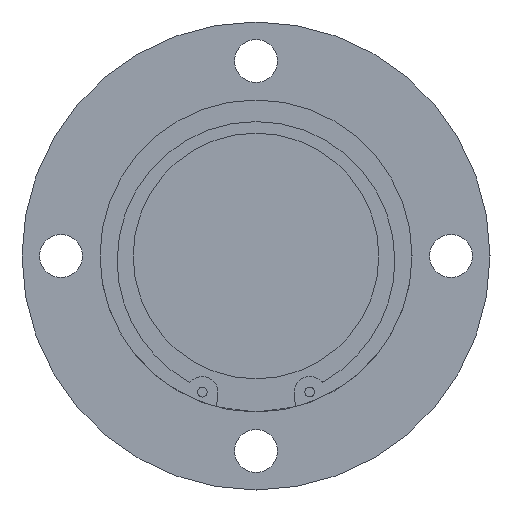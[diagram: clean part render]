
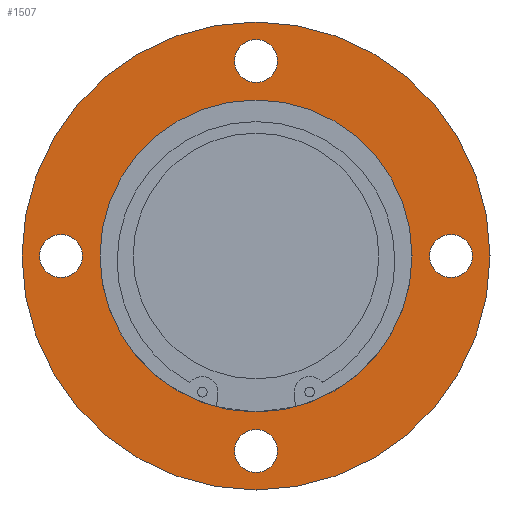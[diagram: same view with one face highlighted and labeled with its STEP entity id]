
A CAD part, front view. The second image highlights one B-rep face of the part: STEP entity #1507.
In plain terms, the highlighted planar face has unit normal (0, -1, 0).
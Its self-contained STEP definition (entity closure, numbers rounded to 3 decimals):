
#78 = EDGE_CURVE ( 'NONE', #1562, #536, #2564, .T. ) ;
#121 = ORIENTED_EDGE ( 'NONE', *, *, #3142, .T. ) ;
#181 = CARTESIAN_POINT ( 'NONE',  ( 0., 0., -50. ) ) ;
#236 = AXIS2_PLACEMENT_3D ( 'NONE', #996, #3233, #1723 ) ;
#248 = CARTESIAN_POINT ( 'NONE',  ( 0., 0., 0. ) ) ;
#262 = VERTEX_POINT ( 'NONE', #3235 ) ;
#306 = CIRCLE ( 'NONE', #2497, 60. ) ;
#325 = DIRECTION ( 'NONE',  ( 1., 0., 0. ) ) ;
#341 = EDGE_LOOP ( 'NONE', ( #642, #1857 ) ) ;
#365 = DIRECTION ( 'NONE',  ( 0., 1., 0. ) ) ;
#440 = VERTEX_POINT ( 'NONE', #2336 ) ;
#497 = DIRECTION ( 'NONE',  ( -1., 0., 0. ) ) ;
#498 = EDGE_CURVE ( 'NONE', #2061, #262, #2524, .T. ) ;
#500 = DIRECTION ( 'NONE',  ( 0., 1., 0. ) ) ;
#536 = VERTEX_POINT ( 'NONE', #1197 ) ;
#544 = CIRCLE ( 'NONE', #236, 5.5 ) ;
#549 = CARTESIAN_POINT ( 'NONE',  ( 0., 0., 0. ) ) ;
#554 = FACE_BOUND ( 'NONE', #2042, .T. ) ;
#577 = DIRECTION ( 'NONE',  ( 0., 1., 0. ) ) ;
#588 = VERTEX_POINT ( 'NONE', #728 ) ;
#606 = CARTESIAN_POINT ( 'NONE',  ( -55.5, 0., 0. ) ) ;
#642 = ORIENTED_EDGE ( 'NONE', *, *, #1588, .T. ) ;
#685 = CARTESIAN_POINT ( 'NONE',  ( 55.5, 0., 0. ) ) ;
#728 = CARTESIAN_POINT ( 'NONE',  ( -40., 0., 0. ) ) ;
#762 = VERTEX_POINT ( 'NONE', #685 ) ;
#764 = VERTEX_POINT ( 'NONE', #3005 ) ;
#785 = ORIENTED_EDGE ( 'NONE', *, *, #2145, .T. ) ;
#796 = EDGE_CURVE ( 'NONE', #764, #762, #544, .T. ) ;
#803 = DIRECTION ( 'NONE',  ( 0., 1., 0. ) ) ;
#809 = DIRECTION ( 'NONE',  ( -1., 0., 0. ) ) ;
#841 = EDGE_CURVE ( 'NONE', #1816, #588, #3081, .T. ) ;
#867 = ORIENTED_EDGE ( 'NONE', *, *, #78, .T. ) ;
#922 = EDGE_LOOP ( 'NONE', ( #1017, #3146 ) ) ;
#925 = DIRECTION ( 'NONE',  ( 1., 0., 0. ) ) ;
#934 = DIRECTION ( 'NONE',  ( 1., 0., 0. ) ) ;
#996 = CARTESIAN_POINT ( 'NONE',  ( 50., 0., 0. ) ) ;
#997 = CARTESIAN_POINT ( 'NONE',  ( 60., 0., 0. ) ) ;
#1017 = ORIENTED_EDGE ( 'NONE', *, *, #796, .T. ) ;
#1102 = DIRECTION ( 'NONE',  ( 1., 0., 0. ) ) ;
#1156 = PLANE ( 'NONE',  #2818 ) ;
#1165 = CIRCLE ( 'NONE', #3089, 5.5 ) ;
#1197 = CARTESIAN_POINT ( 'NONE',  ( -5.5, 0., -50. ) ) ;
#1229 = FACE_BOUND ( 'NONE', #922, .T. ) ;
#1247 = AXIS2_PLACEMENT_3D ( 'NONE', #248, #2009, #497 ) ;
#1265 = AXIS2_PLACEMENT_3D ( 'NONE', #181, #1936, #325 ) ;
#1285 = AXIS2_PLACEMENT_3D ( 'NONE', #2942, #1417, #3187 ) ;
#1299 = EDGE_CURVE ( 'NONE', #762, #764, #2069, .T. ) ;
#1309 = CARTESIAN_POINT ( 'NONE',  ( 5.5, 0., 50. ) ) ;
#1417 = DIRECTION ( 'NONE',  ( 0., 1., 0. ) ) ;
#1422 = CARTESIAN_POINT ( 'NONE',  ( -50., 0., 0. ) ) ;
#1454 = CARTESIAN_POINT ( 'NONE',  ( 50., 0., 0. ) ) ;
#1462 = CARTESIAN_POINT ( 'NONE',  ( 0., 0., 50. ) ) ;
#1487 = EDGE_CURVE ( 'NONE', #440, #1883, #1884, .T. ) ;
#1507 = ADVANCED_FACE ( 'NONE', ( #3252, #1229, #554, #3147, #2494, #1817 ), #1156, .T. ) ;
#1562 = VERTEX_POINT ( 'NONE', #2462 ) ;
#1583 = ORIENTED_EDGE ( 'NONE', *, *, #841, .T. ) ;
#1584 = AXIS2_PLACEMENT_3D ( 'NONE', #2318, #803, #2563 ) ;
#1588 = EDGE_CURVE ( 'NONE', #262, #2061, #2335, .T. ) ;
#1647 = VERTEX_POINT ( 'NONE', #606 ) ;
#1674 = CARTESIAN_POINT ( 'NONE',  ( -60., 0., 0. ) ) ;
#1702 = EDGE_LOOP ( 'NONE', ( #2338, #1583 ) ) ;
#1715 = DIRECTION ( 'NONE',  ( 1., 0., 0. ) ) ;
#1723 = DIRECTION ( 'NONE',  ( 1., 0., 0. ) ) ;
#1777 = EDGE_LOOP ( 'NONE', ( #2362, #2857 ) ) ;
#1816 = VERTEX_POINT ( 'NONE', #2947 ) ;
#1817 = FACE_OUTER_BOUND ( 'NONE', #1777, .T. ) ;
#1856 = EDGE_CURVE ( 'NONE', #536, #1562, #1165, .T. ) ;
#1857 = ORIENTED_EDGE ( 'NONE', *, *, #498, .T. ) ;
#1862 = EDGE_LOOP ( 'NONE', ( #121, #785 ) ) ;
#1873 = CARTESIAN_POINT ( 'NONE',  ( 0., 0., 0. ) ) ;
#1883 = VERTEX_POINT ( 'NONE', #997 ) ;
#1884 = CIRCLE ( 'NONE', #1285, 60. ) ;
#1936 = DIRECTION ( 'NONE',  ( 0., 1., 0. ) ) ;
#2009 = DIRECTION ( 'NONE',  ( 0., 1., 0. ) ) ;
#2012 = CARTESIAN_POINT ( 'NONE',  ( 0., 0., -50. ) ) ;
#2020 = ORIENTED_EDGE ( 'NONE', *, *, #1856, .T. ) ;
#2042 = EDGE_LOOP ( 'NONE', ( #2020, #867 ) ) ;
#2050 = CIRCLE ( 'NONE', #2667, 5.5 ) ;
#2061 = VERTEX_POINT ( 'NONE', #1309 ) ;
#2069 = CIRCLE ( 'NONE', #3058, 5.5 ) ;
#2096 = CARTESIAN_POINT ( 'NONE',  ( 0., 0., 50. ) ) ;
#2129 = DIRECTION ( 'NONE',  ( -1., 0., 0. ) ) ;
#2145 = EDGE_CURVE ( 'NONE', #2684, #1647, #2050, .T. ) ;
#2208 = AXIS2_PLACEMENT_3D ( 'NONE', #2096, #577, #2350 ) ;
#2269 = DIRECTION ( 'NONE',  ( 1., 0., 0. ) ) ;
#2318 = CARTESIAN_POINT ( 'NONE',  ( -50., 0., 0. ) ) ;
#2324 = DIRECTION ( 'NONE',  ( 0., 1., 0. ) ) ;
#2335 = CIRCLE ( 'NONE', #2990, 5.5 ) ;
#2336 = CARTESIAN_POINT ( 'NONE',  ( -60., 0., 0. ) ) ;
#2338 = ORIENTED_EDGE ( 'NONE', *, *, #2650, .T. ) ;
#2342 = CIRCLE ( 'NONE', #1584, 5.5 ) ;
#2350 = DIRECTION ( 'NONE',  ( 1., 0., 0. ) ) ;
#2353 = CIRCLE ( 'NONE', #2378, 40. ) ;
#2362 = ORIENTED_EDGE ( 'NONE', *, *, #1487, .F. ) ;
#2378 = AXIS2_PLACEMENT_3D ( 'NONE', #549, #2324, #809 ) ;
#2396 = CARTESIAN_POINT ( 'NONE',  ( -44.5, 0., 0. ) ) ;
#2435 = DIRECTION ( 'NONE',  ( 0., -1., 0. ) ) ;
#2442 = DIRECTION ( 'NONE',  ( 0., 1., 0. ) ) ;
#2462 = CARTESIAN_POINT ( 'NONE',  ( 5.5, 0., -50. ) ) ;
#2494 = FACE_BOUND ( 'NONE', #1702, .T. ) ;
#2497 = AXIS2_PLACEMENT_3D ( 'NONE', #1873, #365, #2129 ) ;
#2501 = DIRECTION ( 'NONE',  ( 0., 1., 0. ) ) ;
#2524 = CIRCLE ( 'NONE', #2208, 5.5 ) ;
#2563 = DIRECTION ( 'NONE',  ( 1., 0., 0. ) ) ;
#2564 = CIRCLE ( 'NONE', #1265, 5.5 ) ;
#2650 = EDGE_CURVE ( 'NONE', #588, #1816, #2353, .T. ) ;
#2667 = AXIS2_PLACEMENT_3D ( 'NONE', #1422, #2442, #934 ) ;
#2684 = VERTEX_POINT ( 'NONE', #2396 ) ;
#2818 = AXIS2_PLACEMENT_3D ( 'NONE', #1674, #2435, #925 ) ;
#2857 = ORIENTED_EDGE ( 'NONE', *, *, #2944, .F. ) ;
#2942 = CARTESIAN_POINT ( 'NONE',  ( 0., 0., 0. ) ) ;
#2944 = EDGE_CURVE ( 'NONE', #1883, #440, #306, .T. ) ;
#2947 = CARTESIAN_POINT ( 'NONE',  ( 40., 0., 0. ) ) ;
#2990 = AXIS2_PLACEMENT_3D ( 'NONE', #1462, #2501, #1102 ) ;
#3005 = CARTESIAN_POINT ( 'NONE',  ( 44.5, 0., 0. ) ) ;
#3058 = AXIS2_PLACEMENT_3D ( 'NONE', #1454, #3225, #1715 ) ;
#3081 = CIRCLE ( 'NONE', #1247, 40. ) ;
#3089 = AXIS2_PLACEMENT_3D ( 'NONE', #2012, #500, #2269 ) ;
#3142 = EDGE_CURVE ( 'NONE', #1647, #2684, #2342, .T. ) ;
#3146 = ORIENTED_EDGE ( 'NONE', *, *, #1299, .T. ) ;
#3147 = FACE_BOUND ( 'NONE', #1862, .T. ) ;
#3187 = DIRECTION ( 'NONE',  ( -1., 0., 0. ) ) ;
#3225 = DIRECTION ( 'NONE',  ( 0., 1., 0. ) ) ;
#3233 = DIRECTION ( 'NONE',  ( 0., 1., 0. ) ) ;
#3235 = CARTESIAN_POINT ( 'NONE',  ( -5.5, 0., 50. ) ) ;
#3252 = FACE_BOUND ( 'NONE', #341, .T. ) ;
